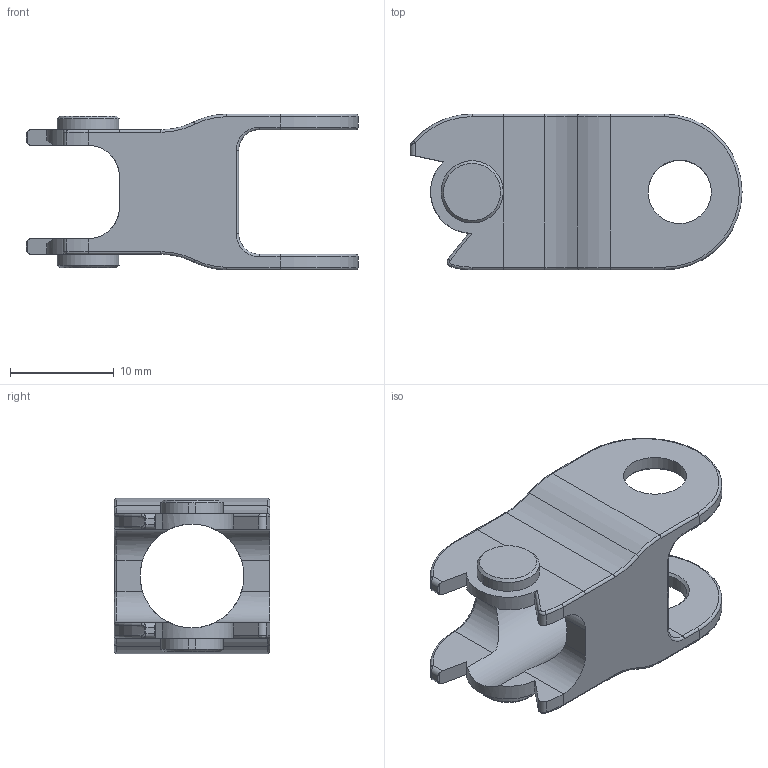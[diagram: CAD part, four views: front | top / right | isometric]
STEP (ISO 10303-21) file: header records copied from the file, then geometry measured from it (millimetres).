
FILE_DESCRIPTION((''),'2;1');
FILE_NAME('C:\Uebbing\PARAMETERKETTEN\KOLIBRI\Kol_15_015_3\Kol_15_015_3.stp','2011-11-02T10:54:49',('Uebbing'),(''),'Autodesk Inventor 10','Autodesk Inventor 10','');
FILE_SCHEMA(('AUTOMOTIVE_DESIGN { 1 0 10303 214 1 1 1 1 }'));
Length unit declared in the file: millimetre
Products named in the file (1): Kol_15_015_3
Bounding box: 31.98 x 15 x 15 mm (x, y, z)
Volume: 2108.1 mm3; surface area: 2257.2 mm2
Topology: 1 solids, 1 shells, 115 faces, 285 edges, 172 vertices
Faces by surface type: cylinder 54, plane 27, torus 25, bspline 5, cone 4
Full cylindrical faces by diameter (mm): 6.1 x2, 10 x1
Entity records: 4013 total; most frequent: CARTESIAN_POINT 1270, DIRECTION 608, ORIENTED_EDGE 548, EDGE_CURVE 274, AXIS2_PLACEMENT_3D 247, VERTEX_POINT 168, CIRCLE 132, EDGE_LOOP 128
